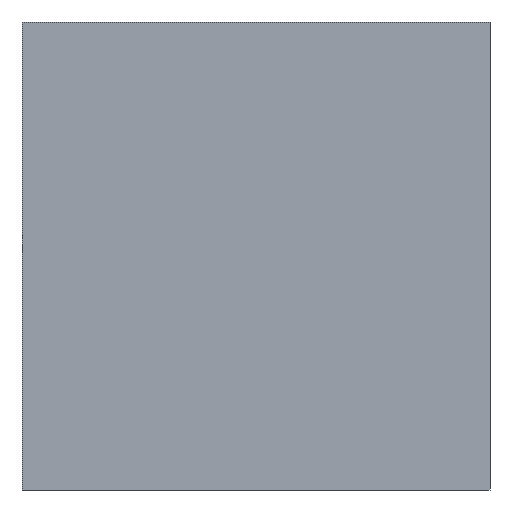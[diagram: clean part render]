
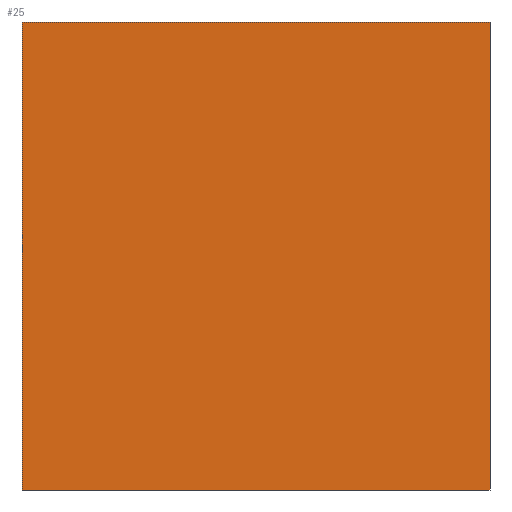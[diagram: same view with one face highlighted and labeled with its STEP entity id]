
A CAD part, left-side view. The second image highlights one B-rep face of the part: STEP entity #25.
In plain terms, the highlighted planar face has unit normal (-1, 0, 0).
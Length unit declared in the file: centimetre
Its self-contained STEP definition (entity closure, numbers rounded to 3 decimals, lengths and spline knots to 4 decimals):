
#9 = LINE ( 'NONE', #54, #593 ) ;
#11 = CARTESIAN_POINT ( 'NONE',  ( 0., 1000., 1000. ) ) ;
#25 = ADVANCED_FACE ( 'NONE', ( #194 ), #249, .F. ) ;
#33 = DIRECTION ( 'NONE',  ( 0., -1., 0. ) ) ;
#54 = CARTESIAN_POINT ( 'NONE',  ( 0., 1000., 1000. ) ) ;
#57 = DIRECTION ( 'NONE',  ( 0., 0., -1. ) ) ;
#74 = EDGE_LOOP ( 'NONE', ( #399, #596, #489, #580 ) ) ;
#77 = VERTEX_POINT ( 'NONE', #527 ) ;
#79 = LINE ( 'NONE', #220, #347 ) ;
#96 = LINE ( 'NONE', #334, #139 ) ;
#135 = EDGE_CURVE ( 'NONE', #351, #77, #9, .T. ) ;
#139 = VECTOR ( 'NONE', #566, 100. ) ;
#180 = CARTESIAN_POINT ( 'NONE',  ( 0., 0., 1000. ) ) ;
#194 = FACE_OUTER_BOUND ( 'NONE', #74, .T. ) ;
#206 = VERTEX_POINT ( 'NONE', #385 ) ;
#216 = EDGE_CURVE ( 'NONE', #351, #477, #96, .T. ) ;
#220 = CARTESIAN_POINT ( 'NONE',  ( 0., 1000., 0. ) ) ;
#247 = DIRECTION ( 'NONE',  ( 0., 0., -1. ) ) ;
#249 = PLANE ( 'NONE',  #498 ) ;
#263 = EDGE_CURVE ( 'NONE', #77, #206, #79, .T. ) ;
#273 = CARTESIAN_POINT ( 'NONE',  ( 0., 0., 1000. ) ) ;
#334 = CARTESIAN_POINT ( 'NONE',  ( 0., 1000., 1000. ) ) ;
#347 = VECTOR ( 'NONE', #33, 100. ) ;
#351 = VERTEX_POINT ( 'NONE', #540 ) ;
#371 = EDGE_CURVE ( 'NONE', #477, #206, #415, .T. ) ;
#385 = CARTESIAN_POINT ( 'NONE',  ( 0., 0., 0. ) ) ;
#396 = VECTOR ( 'NONE', #471, 100. ) ;
#399 = ORIENTED_EDGE ( 'NONE', *, *, #263, .T. ) ;
#415 = LINE ( 'NONE', #180, #396 ) ;
#471 = DIRECTION ( 'NONE',  ( 0., 0., -1. ) ) ;
#477 = VERTEX_POINT ( 'NONE', #273 ) ;
#489 = ORIENTED_EDGE ( 'NONE', *, *, #216, .F. ) ;
#498 = AXIS2_PLACEMENT_3D ( 'NONE', #11, #518, #57 ) ;
#518 = DIRECTION ( 'NONE',  ( 1., 0., 0. ) ) ;
#527 = CARTESIAN_POINT ( 'NONE',  ( 0., 1000., 0. ) ) ;
#540 = CARTESIAN_POINT ( 'NONE',  ( 0., 1000., 1000. ) ) ;
#566 = DIRECTION ( 'NONE',  ( 0., -1., 0. ) ) ;
#580 = ORIENTED_EDGE ( 'NONE', *, *, #135, .T. ) ;
#593 = VECTOR ( 'NONE', #247, 100. ) ;
#596 = ORIENTED_EDGE ( 'NONE', *, *, #371, .F. ) ;
